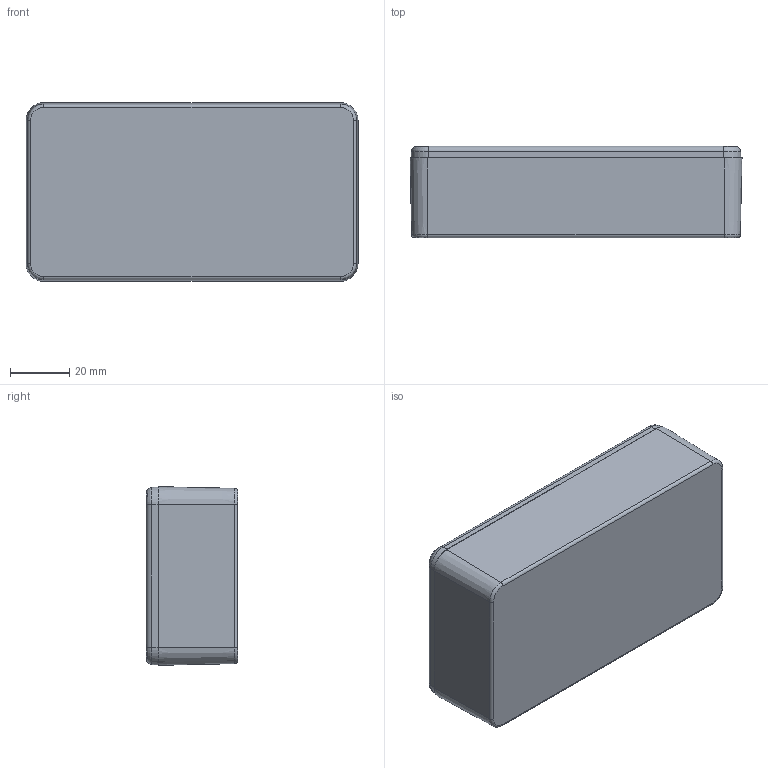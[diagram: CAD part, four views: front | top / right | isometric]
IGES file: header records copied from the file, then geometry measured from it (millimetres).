
Global section: file name: 1590B.iam; native system: Autodesk Inventor 2014; preprocessor: unknown; author: mbeerman; date: 20140728.134450; units: millimetre
Bounding box: 112.4 x 31 x 60.5 mm (x, y, z)
Volume: 50076.5 mm3; surface area: 47435.4 mm2
Topology: 6 solids, 6 shells, 423 faces, 1111 edges, 718 vertices
Faces by surface type: plane 229, bspline 78, revolution 76, cone 20, cylinder 20
Full cylindrical faces by diameter (mm): 3.378 x4
